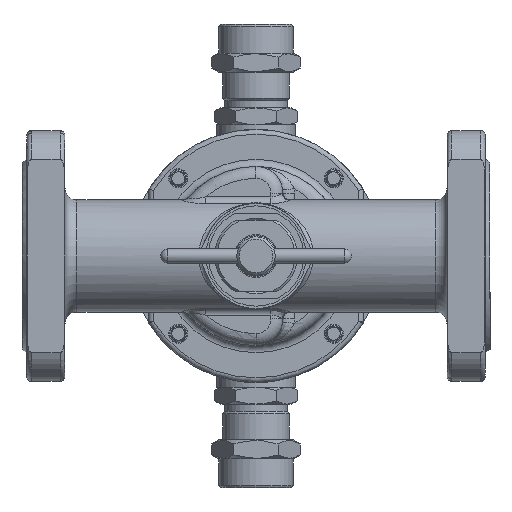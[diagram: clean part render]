
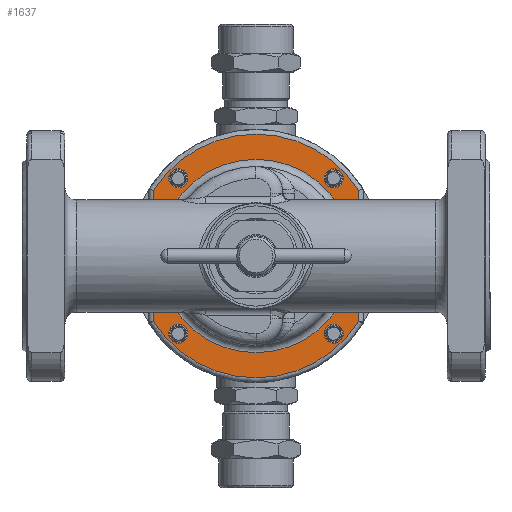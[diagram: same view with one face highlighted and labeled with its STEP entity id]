
A CAD part, front view. The second image highlights one B-rep face of the part: STEP entity #1637.
In plain terms, the highlighted planar face has unit normal (0, -1, 0).
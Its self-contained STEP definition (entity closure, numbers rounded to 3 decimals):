
#1637=ADVANCED_FACE('',(#17283,#17285,#17287,#17289,#17291,#17293),#17295,.F.);
#17283=FACE_BOUND('',#17284,.T.);
#17284=EDGE_LOOP('',(#29965));
#17285=FACE_BOUND('',#17286,.T.);
#17286=EDGE_LOOP('',(#29966));
#17287=FACE_BOUND('',#17288,.T.);
#17288=EDGE_LOOP('',(#29967));
#17289=FACE_BOUND('',#17290,.T.);
#17290=EDGE_LOOP('',(#29968));
#17291=FACE_BOUND('',#17292,.T.);
#17292=EDGE_LOOP('',(#29969));
#17293=FACE_OUTER_BOUND('',#17294,.T.);
#17294=EDGE_LOOP('',(#29970,#29971,#29972,#29973));
#17295=PLANE('',#17296);
#17296=AXIS2_PLACEMENT_3D('',#17297,#17298,#17299);
#17297=CARTESIAN_POINT('',(0.,30.,0.));
#17298=DIRECTION('',(0.,1.,0.));
#17299=DIRECTION('',(-1.,0.,0.));
#29965=ORIENTED_EDGE('',*,*,#37815,.F.);
#29966=ORIENTED_EDGE('',*,*,#37816,.T.);
#29967=ORIENTED_EDGE('',*,*,#37817,.F.);
#29968=ORIENTED_EDGE('',*,*,#37818,.F.);
#29969=ORIENTED_EDGE('',*,*,#37819,.F.);
#29970=ORIENTED_EDGE('',*,*,#37778,.F.);
#29971=ORIENTED_EDGE('',*,*,#37786,.F.);
#29972=ORIENTED_EDGE('',*,*,#37783,.F.);
#29973=ORIENTED_EDGE('',*,*,#37781,.F.);
#37778=EDGE_CURVE('',#45419,#45421,#45422,.T.);
#37781=EDGE_CURVE('',#45421,#45425,#45426,.T.);
#37783=EDGE_CURVE('',#45425,#45428,#45429,.T.);
#37786=EDGE_CURVE('',#45428,#45419,#45432,.T.);
#37815=EDGE_CURVE('',#45467,#45467,#45468,.T.);
#37816=EDGE_CURVE('',#45469,#45469,#45470,.F.);
#37817=EDGE_CURVE('',#45471,#45471,#45472,.T.);
#37818=EDGE_CURVE('',#45473,#45473,#45474,.T.);
#37819=EDGE_CURVE('',#45475,#45475,#45476,.T.);
#45419=VERTEX_POINT('',#69364);
#45421=VERTEX_POINT('',#69379);
#45422=CIRCLE('',#69380,51.);
#45425=VERTEX_POINT('',#69412);
#45426=LINE('',#69413,#69414);
#45428=VERTEX_POINT('',#69435);
#45429=CIRCLE('',#69436,51.);
#45432=LINE('',#69473,#69474);
#45467=VERTEX_POINT('',#69590);
#45468=CIRCLE('',#69591,4.);
#45469=VERTEX_POINT('',#69595);
#45470=CIRCLE('',#69596,4.);
#45471=VERTEX_POINT('',#69600);
#45472=CIRCLE('',#69601,40.5);
#45473=VERTEX_POINT('',#69605);
#45474=CIRCLE('',#69606,4.);
#45475=VERTEX_POINT('',#69610);
#45476=CIRCLE('',#69611,4.);
#69364=CARTESIAN_POINT('',(43.,30.,-27.423));
#69379=CARTESIAN_POINT('',(-43.,30.,-27.423));
#69380=AXIS2_PLACEMENT_3D('',#69381,#69382,#69383);
#69381=CARTESIAN_POINT('',(0.,30.,0.));
#69382=DIRECTION('',(0.,1.,0.));
#69383=DIRECTION('',(0.843,0.,-0.538));
#69412=CARTESIAN_POINT('',(-43.,30.,27.423));
#69413=CARTESIAN_POINT('',(-43.,30.,-27.423));
#69414=VECTOR('',#69415,1.);
#69415=DIRECTION('',(0.,0.,1.));
#69435=CARTESIAN_POINT('',(43.,30.,27.423));
#69436=AXIS2_PLACEMENT_3D('',#69437,#69438,#69439);
#69437=CARTESIAN_POINT('',(0.,30.,0.));
#69438=DIRECTION('',(0.,1.,0.));
#69439=DIRECTION('',(-0.843,0.,0.538));
#69473=CARTESIAN_POINT('',(43.,30.,27.423));
#69474=VECTOR('',#69475,1.);
#69475=DIRECTION('',(0.,0.,-1.));
#69590=CARTESIAN_POINT('',(-28.593,30.,33.253));
#69591=AXIS2_PLACEMENT_3D('',#69592,#69593,#69594);
#69592=CARTESIAN_POINT('',(-32.527,30.,32.527));
#69593=DIRECTION('',(0.,-1.,0.));
#69594=DIRECTION('',(0.983,0.,0.181));
#69595=CARTESIAN_POINT('',(28.593,30.,-33.253));
#69596=AXIS2_PLACEMENT_3D('',#69597,#69598,#69599);
#69597=CARTESIAN_POINT('',(32.527,30.,-32.527));
#69598=DIRECTION('',(0.,-1.,0.));
#69599=DIRECTION('',(-0.983,0.,-0.181));
#69600=CARTESIAN_POINT('',(-40.5,30.,0.));
#69601=AXIS2_PLACEMENT_3D('',#69602,#69603,#69604);
#69602=CARTESIAN_POINT('',(0.,30.,0.));
#69603=DIRECTION('',(0.,-1.,0.));
#69604=DIRECTION('',(-1.,0.,0.));
#69605=CARTESIAN_POINT('',(-33.253,30.,-28.593));
#69606=AXIS2_PLACEMENT_3D('',#69607,#69608,#69609);
#69607=CARTESIAN_POINT('',(-32.527,30.,-32.527));
#69608=DIRECTION('',(0.,-1.,0.));
#69609=DIRECTION('',(-0.181,0.,0.983));
#69610=CARTESIAN_POINT('',(33.253,30.,28.593));
#69611=AXIS2_PLACEMENT_3D('',#69612,#69613,#69614);
#69612=CARTESIAN_POINT('',(32.527,30.,32.527));
#69613=DIRECTION('',(0.,-1.,0.));
#69614=DIRECTION('',(0.181,0.,-0.983));
